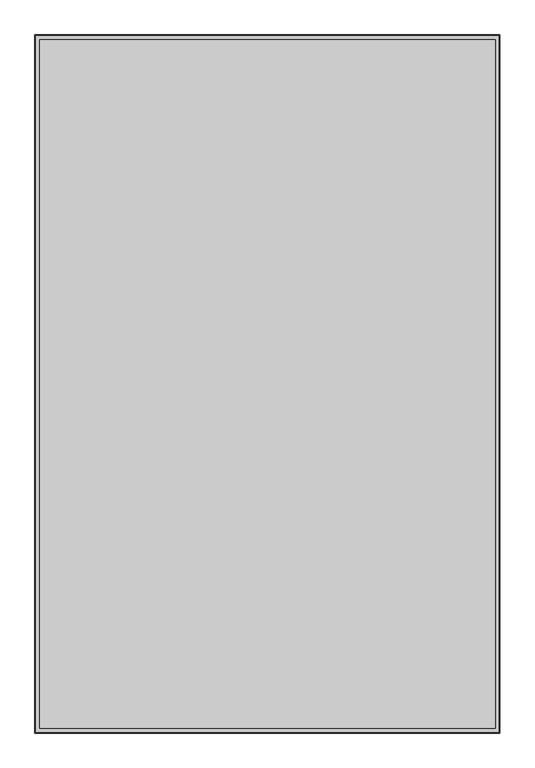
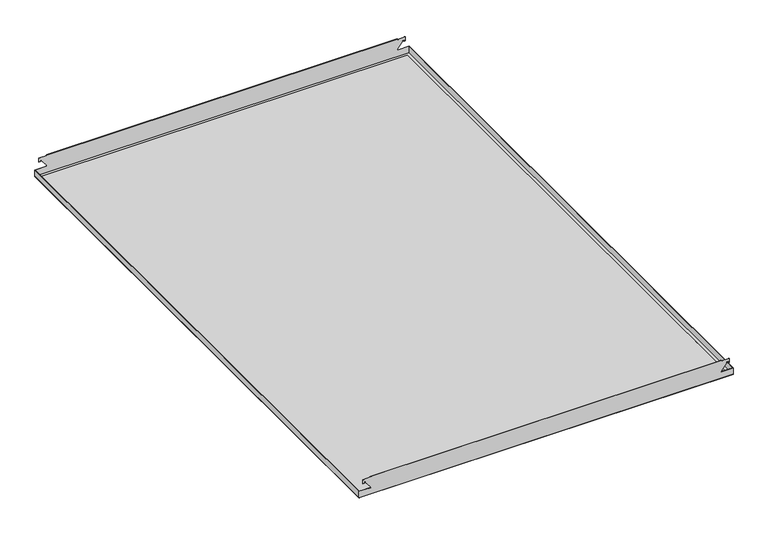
"""IFC4 building model written with IfcOpenShell, lengths in millimetres: proxy geometry, durlum_S10H_panel : durlum_S10H_panel_wall_length_cut."""

from ifc_helpers import new_model, si_unit, frame, origin, origin_with_axes, place, context, project, spatial, polyline, outline, extrude, faceted_brep, source, transform, mapped, element, save


def generic_models_586f8c3b(model_context):
    return source(origin(), model_context, "Body", "SolidModel", [
        faceted_brep([(374.2747768, -599.75, 40.0), (374.2747768, -599.15, 40.0), (-374.2747768, -599.15, 40.0), (-374.2747768, -599.75, 40.0), (374.2747768, 599.15, 40.0), (374.2747768, 599.75, 40.0), (-374.2747768, 599.75, 40.0), (-374.2747768, 599.15, 40.0), (399.75, 599.75, 0.6), (399.75, -599.75, 0.6), (-399.75, -599.75, 0.6), (-399.75, 599.75, 0.6), (399.15, 599.15, 0.6), (-399.15, 599.15, 0.6), (-399.15, -599.15, 0.6), (399.15, -599.15, 0.6), (-399.75, 599.75, 14.6527788), (-374.2747768, 599.75, 14.6527788), (-374.2747768, 599.75, 16.6023513), (-385.3561673, 599.75, 29.8086382), (-385.3561673, 599.75, 32.5809806), (-388.8907761, 599.75, 32.5809806), (-388.8907761, 599.75, 29.4726287), (-391.75, 599.75, 29.4726287), (-391.75, 599.75, 38.4781412), (-374.2747768, 599.75, 38.4781412), (374.2747768, 599.75, 38.4781412), (391.75, 599.75, 38.4781412), (391.75, 599.75, 29.4726287), (388.8907761, 599.75, 29.4726287), (388.8907761, 599.75, 32.5809806), (385.3561673, 599.75, 32.5809806), (385.3561673, 599.75, 29.8086382), (374.2747768, 599.75, 16.6023513), (374.2747768, 599.75, 14.6527788), (399.75, 599.75, 14.6527788), (-399.75, -599.75, 14.6527788), (399.75, -599.75, 14.6527788), (374.2747768, -599.75, 14.6527788), (374.2747768, -599.75, 16.6023513), (385.3561673, -599.75, 29.8086382), (385.3561673, -599.75, 32.5809806), (388.8907761, -599.75, 32.5809806), (388.8907761, -599.75, 29.4726287), (391.75, -599.75, 29.4726287), (391.75, -599.75, 38.4781412), (374.2747768, -599.75, 38.4781412), (-374.2747768, -599.75, 38.4781412), (-391.75, -599.75, 38.4781412), (-391.75, -599.75, 29.4726287), (-388.8907761, -599.75, 29.4726287), (-388.8907761, -599.75, 32.5809806), (-385.3561673, -599.75, 32.5809806), (-385.3561673, -599.75, 29.8086382), (-374.2747768, -599.75, 16.6023513), (-374.2747768, -599.75, 14.6527788), (399.15, -599.15, 14.6527788), (399.15, 599.15, 14.6527788), (-399.15, -599.15, 14.6527788), (-374.2747768, -599.15, 14.6527788), (-374.2747768, -599.15, 16.6023513), (-385.3561673, -599.15, 29.8086382), (-385.3561673, -599.15, 32.5809806), (-388.8907761, -599.15, 32.5809806), (-388.8907761, -599.15, 29.4726287), (-391.75, -599.15, 29.4726287), (-391.75, -599.15, 38.4781412), (-374.2747768, -599.15, 38.4781412), (374.2747768, -599.15, 38.4781412), (391.75, -599.15, 38.4781412), (391.75, -599.15, 29.4726287), (388.8907761, -599.15, 29.4726287), (388.8907761, -599.15, 32.5809806), (385.3561673, -599.15, 32.5809806), (385.3561673, -599.15, 29.8086382), (374.2747768, -599.15, 16.6023513), (374.2747768, -599.15, 14.6527788), (-399.15, 599.15, 14.6527788), (374.2747768, 599.15, 14.6527788), (374.2747768, 599.15, 16.6023513), (385.3561673, 599.15, 29.8086382), (385.3561673, 599.15, 32.5809806), (388.8907761, 599.15, 32.5809806), (388.8907761, 599.15, 29.4726287), (391.75, 599.15, 29.4726287), (391.75, 599.15, 38.4781412), (374.2747768, 599.15, 38.4781412), (-374.2747768, 599.15, 38.4781412), (-391.75, 599.15, 38.4781412), (-391.75, 599.15, 29.4726287), (-388.8907761, 599.15, 29.4726287), (-388.8907761, 599.15, 32.5809806), (-385.3561673, 599.15, 32.5809806), (-385.3561673, 599.15, 29.8086382), (-374.2747768, 599.15, 16.6023513), (-374.2747768, 599.15, 14.6527788)], [[[0, 1, 2, 3]], [[4, 5, 6, 7]], [[8, 9, 10, 11], [12, 13, 14, 15]], [[8, 11, 16, 17, 18, 19, 20, 21, 22, 23, 24, 25, 6, 5, 26, 27, 28, 29, 30, 31, 32, 33, 34, 35]], [[11, 10, 36, 16]], [[10, 9, 37, 38, 39, 40, 41, 42, 43, 44, 45, 46, 0, 3, 47, 48, 49, 50, 51, 52, 53, 54, 55, 36]], [[9, 8, 35, 37]], [[12, 15, 56, 57]], [[15, 14, 58, 59, 60, 61, 62, 63, 64, 65, 66, 67, 2, 1, 68, 69, 70, 71, 72, 73, 74, 75, 76, 56]], [[14, 13, 77, 58]], [[13, 12, 57, 78, 79, 80, 81, 82, 83, 84, 85, 86, 4, 7, 87, 88, 89, 90, 91, 92, 93, 94, 95, 77]], [[68, 46, 45, 69]], [[26, 86, 85, 27]], [[69, 45, 44, 70]], [[27, 85, 84, 28]], [[70, 44, 43, 71]], [[28, 84, 83, 29]], [[71, 43, 42, 72]], [[29, 83, 82, 30]], [[72, 42, 41, 73]], [[30, 82, 81, 31]], [[73, 41, 40, 74]], [[31, 81, 80, 32]], [[74, 40, 39, 75]], [[32, 80, 79, 33]], [[75, 39, 38, 76]], [[33, 79, 78, 34]], [[76, 38, 37, 35, 34, 78, 57, 56]], [[46, 68, 1, 0]], [[86, 26, 5, 4]], [[66, 48, 47, 67]], [[24, 88, 87, 25]], [[48, 66, 65, 49]], [[88, 24, 23, 89]], [[49, 65, 64, 50]], [[89, 23, 22, 90]], [[50, 64, 63, 51]], [[90, 22, 21, 91]], [[51, 63, 62, 52]], [[91, 21, 20, 92]], [[52, 62, 61, 53]], [[92, 20, 19, 93]], [[53, 61, 60, 54]], [[93, 19, 18, 94]], [[54, 60, 59, 55]], [[94, 18, 17, 95]], [[55, 59, 58, 77, 95, 17, 16, 36]], [[67, 47, 3, 2]], [[25, 87, 7, 6]]]),
        extrude(outline(polyline([(391.75, 591.75), (391.75, -591.75), (-391.75, -591.75), (-391.75, 591.75), (391.75, 591.75)])), frame((0.0, 0.0, 0.6), z_axis=(0.0, 0.0, 1.0), x_axis=(1.0, 0.0, 0.0)), (0.0, 0.0, 1.0), 0.6),
        extrude(outline(polyline([(399.75, 599.75), (399.75, -599.75), (-399.75, -599.75), (-399.75, 599.75), (399.75, 599.75)]), holes=[polyline([(391.75, 591.75), (-391.75, 591.75), (-391.75, -591.75), (391.75, -591.75), (391.75, 591.75)])]), origin_with_axes(), (0.0, 0.0, 1.0), 0.6),
        extrude(outline(polyline([(391.75, 591.75), (391.75, -591.75), (-391.75, -591.75), (-391.75, 591.75), (391.75, 591.75)])), origin_with_axes(), (0.0, 0.0, 1.0), 0.6),
    ])


if __name__ == "__main__":
    model = new_model("IFC4")
    model_context = context("Model", 3, world=origin())
    ifc_project = project(units=[si_unit("LENGTHUNIT", "METRE", prefix="MILLI")], contexts=[model_context])
    site = spatial("IfcSite", under=ifc_project)
    building = spatial("IfcBuilding", under=site)
    placement = place(None, origin())
    generic_models_shape = generic_models_586f8c3b(model_context)
    element("IfcBuildingElementProxy", 1, Name="durlum_S10H_panel : durlum_S10H_panel_wall_length_cut", ObjectType="durlum_S10H_panel : durlum_S10H_panel_wall_length_cut", at=placement, inside=building, context=model_context, shape_type="MappedRepresentation", body=[
        mapped(generic_models_shape, transform((0.0, 0.0, 0.0), x_axis=(1.0, 0.0, 0.0), y_axis=(0.0, 1.0, 0.0), z_axis=(0.0, 0.0, 1.0))),
    ])
    save(model, "model.ifc")
